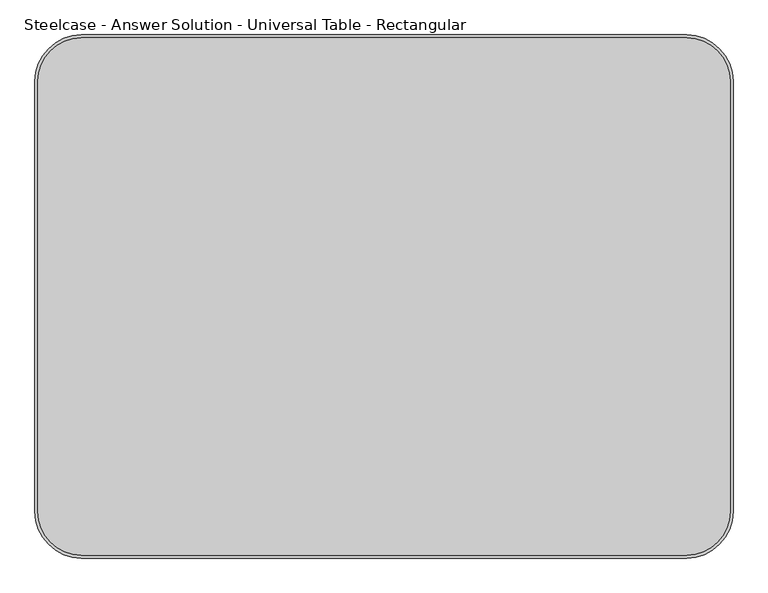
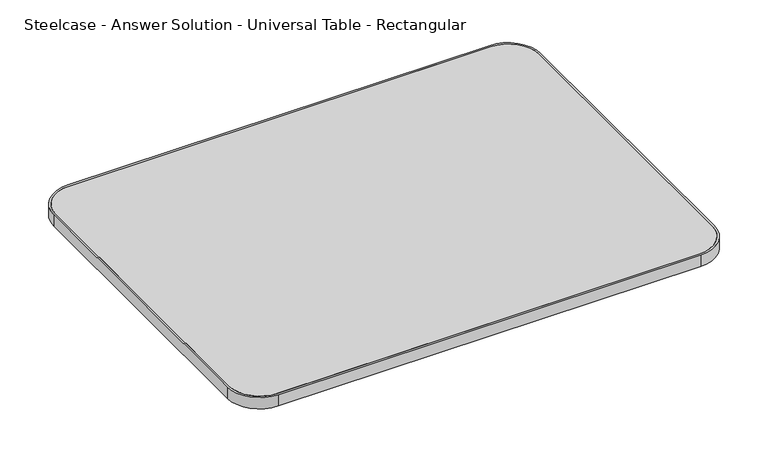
"""IFC4 building model written with IfcOpenShell, lengths in millimetres: furniture geometry, Steelcase - Answer Solution - Universal Table - Rectangular : 36D x 66W."""

from ifc_helpers import new_model, si_unit, point, frame, frame_2d, origin, place, context, project, spatial, polyline, circle_curve, trimmed, segment, composite_curve, outline, extrude, source, transform, mapped, element, save


def steelcase_answer_solution_universal_table_rectangular_6d54e472(model_context):
    return source(origin(), model_context, "Body", "SweptSolid", [
        extrude(outline(composite_curve([segment(polyline([(5.08, -833.12), (5.08, -81.28)]), True, "CONTINUOUS"), segment(trimmed(circle_curve(frame_2d((81.28, -81.28)), 76.2), [point((5.08, -81.28))], [point((81.28, -5.08))], False, "CARTESIAN"), True, "CONTINUOUS"), segment(polyline([(81.28, -5.08), (1137.92, -5.08)]), True, "CONTINUOUS"), segment(trimmed(circle_curve(frame_2d((1137.92, -81.28)), 76.2), [point((1137.92, -5.08))], [point((1214.12, -81.28))], False, "CARTESIAN"), True, "CONTINUOUS"), segment(polyline([(1214.12, -81.28), (1214.12, -833.12)]), True, "CONTINUOUS"), segment(trimmed(circle_curve(frame_2d((1137.92, -833.12)), 76.2), [point((1214.12, -833.12))], [point((1137.92, -909.32))], False, "CARTESIAN"), True, "CONTINUOUS"), segment(polyline([(1137.92, -909.32), (81.28, -909.32)]), True, "CONTINUOUS"), segment(trimmed(circle_curve(frame_2d((81.28, -833.12)), 76.2), [point((81.28, -909.32))], [point((5.08, -833.12))], False, "CARTESIAN"), True, "CONTINUOUS")], self_intersect=False)), frame((0.0, 0.0, 668.274), z_axis=(0.0, 0.0, 1.0), x_axis=(1.0, 0.0, 0.0)), (0.0, 0.0, 1.0), 30.0990349),
        extrude(outline(composite_curve([segment(polyline([(81.28, 0.0), (1137.92, 0.0)]), True, "CONTINUOUS"), segment(trimmed(circle_curve(frame_2d((1137.92, -81.28)), 81.28), [point((1137.92, 0.0))], [point((1219.2, -81.28))], False, "CARTESIAN"), True, "CONTINUOUS"), segment(polyline([(1219.2, -81.28), (1219.2, -833.12)]), True, "CONTINUOUS"), segment(trimmed(circle_curve(frame_2d((1137.92, -833.12)), 81.28), [point((1219.2, -833.12))], [point((1137.92, -914.4))], False, "CARTESIAN"), True, "CONTINUOUS"), segment(polyline([(1137.92, -914.4), (81.28, -914.4)]), True, "CONTINUOUS"), segment(trimmed(circle_curve(frame_2d((81.28, -833.12)), 81.28), [point((81.28, -914.4))], [point((0.0, -833.12))], False, "CARTESIAN"), True, "CONTINUOUS"), segment(polyline([(0.0, -833.12), (0.0, -81.28)]), True, "CONTINUOUS"), segment(trimmed(circle_curve(frame_2d((81.28, -81.28)), 81.28), [point((0.0, -81.28))], [point((81.28, 0.0))], False, "CARTESIAN"), True, "CONTINUOUS")], self_intersect=False), holes=[composite_curve([segment(trimmed(circle_curve(frame_2d((81.28, -81.28)), 76.2), [point((81.28, -5.08))], [point((5.08, -81.28))], True, "CARTESIAN"), True, "CONTINUOUS"), segment(polyline([(5.08, -81.28), (5.08, -833.12)]), True, "CONTINUOUS"), segment(trimmed(circle_curve(frame_2d((81.28, -833.12)), 76.2), [point((5.08, -833.12))], [point((81.28, -909.32))], True, "CARTESIAN"), True, "CONTINUOUS"), segment(polyline([(81.28, -909.32), (1137.92, -909.32)]), True, "CONTINUOUS"), segment(trimmed(circle_curve(frame_2d((1137.92, -833.12)), 76.2), [point((1137.92, -909.32))], [point((1214.12, -833.12))], True, "CARTESIAN"), True, "CONTINUOUS"), segment(polyline([(1214.12, -833.12), (1214.12, -81.28)]), True, "CONTINUOUS"), segment(trimmed(circle_curve(frame_2d((1137.92, -81.28)), 76.2), [point((1214.12, -81.28))], [point((1137.92, -5.08))], True, "CARTESIAN"), True, "CONTINUOUS"), segment(polyline([(1137.92, -5.08), (81.28, -5.08)]), True, "CONTINUOUS")], self_intersect=False)]), frame((0.0, 0.0, 668.274), z_axis=(0.0, 0.0, 1.0), x_axis=(1.0, 0.0, 0.0)), (0.0, 0.0, 1.0), 30.0990349),
    ])


if __name__ == "__main__":
    model = new_model("IFC4")
    model_context = context("Model", 3, world=origin())
    ifc_project = project(units=[si_unit("LENGTHUNIT", "METRE", prefix="MILLI")], contexts=[model_context])
    site = spatial("IfcSite", under=ifc_project)
    building = spatial("IfcBuilding", under=site)
    placement = place(None, origin())
    steelcase_answer_solution_universal_table_rectangular_shape = steelcase_answer_solution_universal_table_rectangular_6d54e472(model_context)
    element("IfcFurniture", 1, ObjectType="Steelcase - Answer Solution - Universal Table - Rectangular : 36D x 66W", at=placement, inside=building, context=model_context, shape_type="MappedRepresentation", body=[
        mapped(steelcase_answer_solution_universal_table_rectangular_shape, transform((0.0, 0.0, 0.0), x_axis=(1.0, 0.0, 0.0), y_axis=(0.0, 1.0, 0.0), z_axis=(0.0, 0.0, 1.0))),
    ])
    save(model, "model.ifc")
